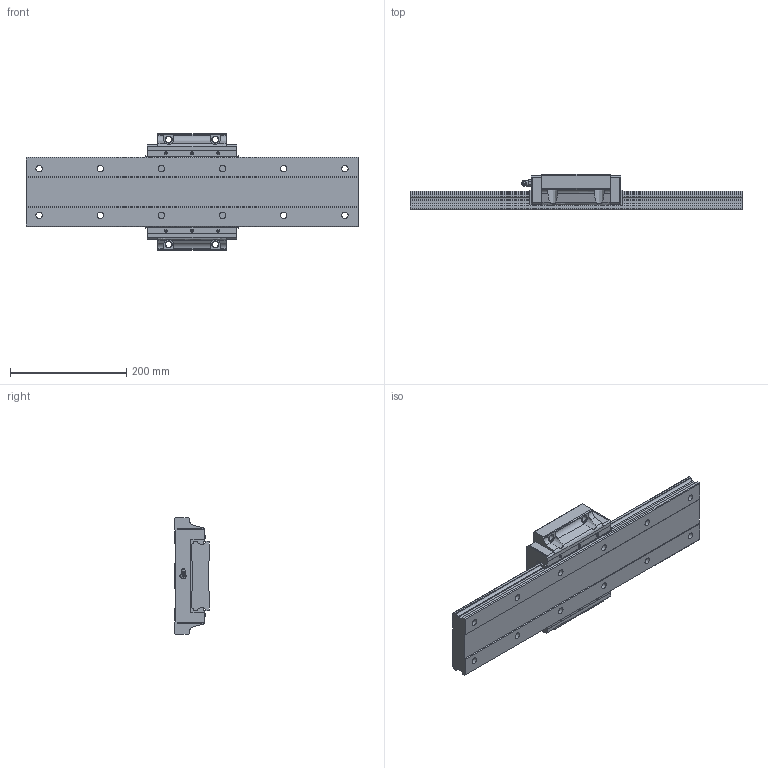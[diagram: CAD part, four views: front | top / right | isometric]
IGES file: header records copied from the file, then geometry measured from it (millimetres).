
Start section: Data from Parasolid IGES Translator 26.0.171, Copyright(c) 2006 Siemens PLM Software. All Rights Reserved.
Global section: file name: HRW60CA1SS-570L_G22-5_0_B-PT18_205-55_0_0_0_1.igs; native system: By Siemens PLM Incorporated; preprocessor: XPlus GENERIC/IGES 26.0.171; author: Noname; organization: Noname; date: 20240521.094922; units: millimetre
Bounding box: 570 x 60 x 200 mm (x, y, z)
Surface area: 299458.7 mm2 (no closed solid volume)
Topology: 0 solids, 0 shells, 282 faces, 1465 edges, 1353 vertices
Faces by surface type: extrusion 181, revolution 101
